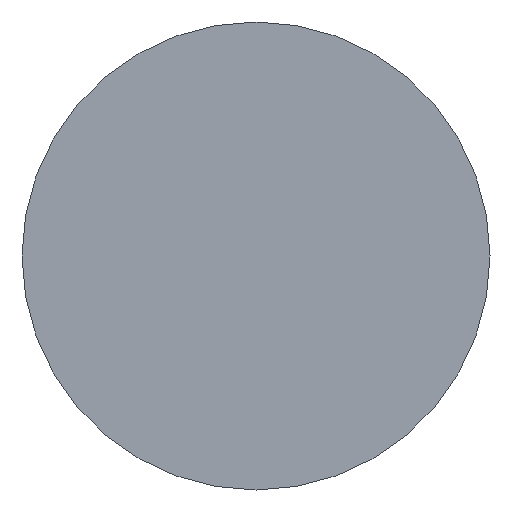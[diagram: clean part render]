
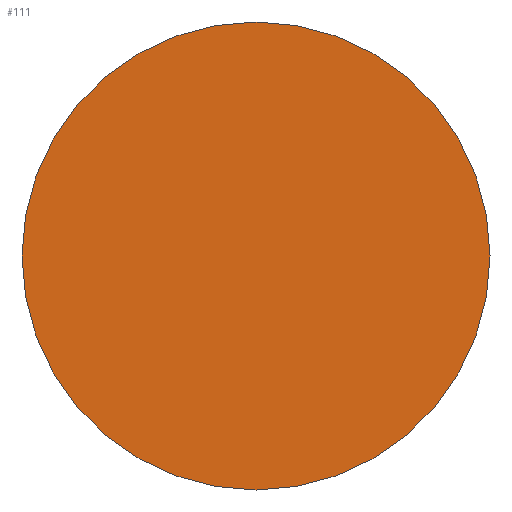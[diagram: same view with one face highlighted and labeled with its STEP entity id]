
A CAD part, left-side view. The second image highlights one B-rep face of the part: STEP entity #111.
In plain terms, the highlighted planar face has unit normal (-1, 0, 0).
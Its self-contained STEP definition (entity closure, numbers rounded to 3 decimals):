
#7 = VERTEX_POINT ( 'NONE', #200 ) ;
#11 = CIRCLE ( 'NONE', #118, 12. ) ;
#16 = DIRECTION ( 'NONE',  ( -1., 0., 0. ) ) ;
#28 = CARTESIAN_POINT ( 'NONE',  ( 0., 0., 0. ) ) ;
#46 = CARTESIAN_POINT ( 'NONE',  ( 0., 12., 0. ) ) ;
#49 = DIRECTION ( 'NONE',  ( 1., 0., 0. ) ) ;
#56 = AXIS2_PLACEMENT_3D ( 'NONE', #263, #16, #239 ) ;
#63 = CARTESIAN_POINT ( 'NONE',  ( 0., 0., 0. ) ) ;
#84 = DIRECTION ( 'NONE',  ( 0., 1., 0. ) ) ;
#94 = CIRCLE ( 'NONE', #136, 12. ) ;
#109 = DIRECTION ( 'NONE',  ( 1., 0., 0. ) ) ;
#111 = ADVANCED_FACE ( 'NONE', ( #126 ), #120, .T. ) ;
#118 = AXIS2_PLACEMENT_3D ( 'NONE', #63, #109, #146 ) ;
#120 = PLANE ( 'NONE',  #56 ) ;
#126 = FACE_OUTER_BOUND ( 'NONE', #223, .T. ) ;
#136 = AXIS2_PLACEMENT_3D ( 'NONE', #28, #49, #84 ) ;
#146 = DIRECTION ( 'NONE',  ( 0., 1., 0. ) ) ;
#167 = ORIENTED_EDGE ( 'NONE', *, *, #270, .F. ) ;
#180 = VERTEX_POINT ( 'NONE', #46 ) ;
#200 = CARTESIAN_POINT ( 'NONE',  ( 0., -12., 0. ) ) ;
#223 = EDGE_LOOP ( 'NONE', ( #167, #237 ) ) ;
#237 = ORIENTED_EDGE ( 'NONE', *, *, #257, .F. ) ;
#239 = DIRECTION ( 'NONE',  ( 0., -1., 0. ) ) ;
#257 = EDGE_CURVE ( 'NONE', #7, #180, #11, .T. ) ;
#263 = CARTESIAN_POINT ( 'NONE',  ( 0., 0., 0. ) ) ;
#270 = EDGE_CURVE ( 'NONE', #180, #7, #94, .T. ) ;
